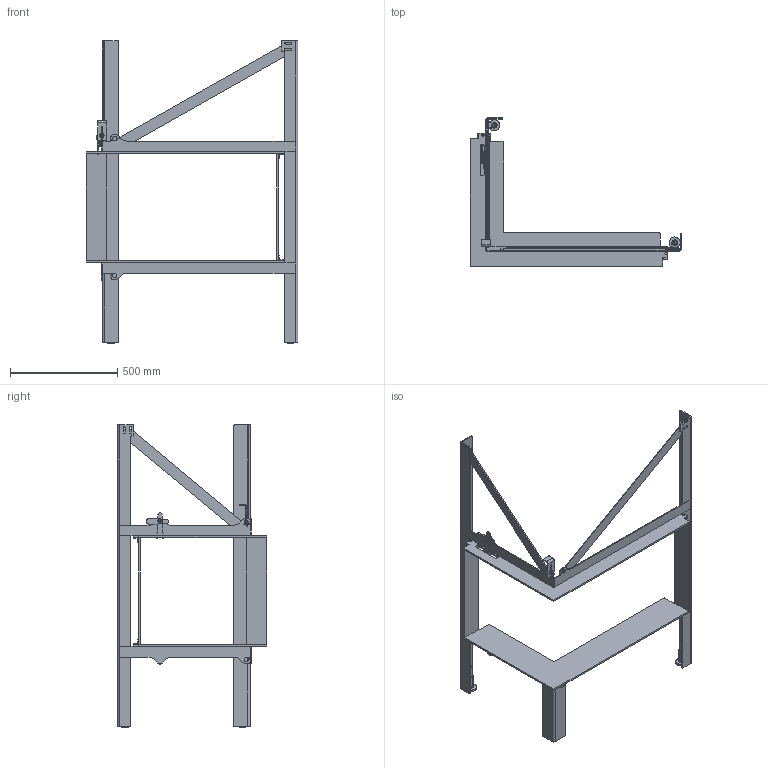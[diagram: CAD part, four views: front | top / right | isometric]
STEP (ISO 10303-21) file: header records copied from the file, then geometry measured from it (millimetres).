
FILE_DESCRIPTION(/* description */ (''),/* implementation_level */ '2;1');
FILE_NAME(/* name */ 'C:\Users\jku\Desktop\Export\Links Einbaurahmen freistehend.stp',/* time_stamp */ '2019-09-30T07:43:31+02:00',/* author */ ('jku'),/* organization */ (''),/* preprocessor_version */ 'ST-DEVELOPER v17.2',/* originating_system */ 'Autodesk Inventor 2019',/* authorisation */ '');
FILE_SCHEMA (('AUTOMOTIVE_DESIGN { 1 0 10303 214 3 1 1 }'));
Length unit declared in the file: millimetre
Products named in the file (1): 2019-02946
Bounding box: 986.4 x 693.5 x 1406 mm (x, y, z)
Volume: 7217021.8 mm3; surface area: 2467952.1 mm2
Topology: 35 solids, 35 shells, 745 faces, 1939 edges, 1275 vertices
Faces by surface type: plane 406, cylinder 287, cone 52
Full cylindrical faces by diameter (mm): 10 x1, 10.21 x2, 16 x4, 17 x3, 20 x2, 24 x3, 25 x2, 30 x3
Entity records: 23563 total; most frequent: CARTESIAN_POINT 4452, DIRECTION 3950, ORIENTED_EDGE 3878, EDGE_CURVE 1939, AXIS2_PLACEMENT_3D 1385, VERTEX_POINT 1275, LINE 1180, VECTOR 1180
